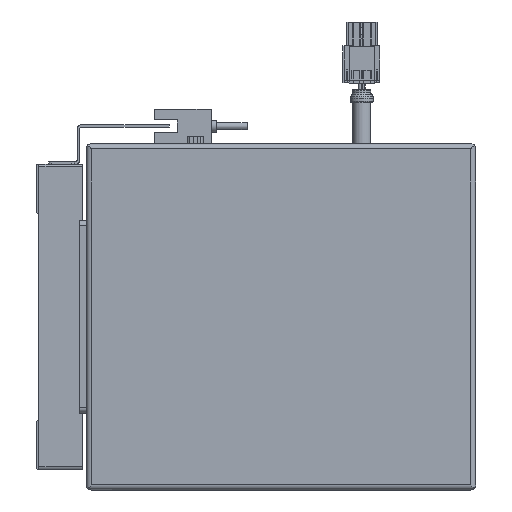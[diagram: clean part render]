
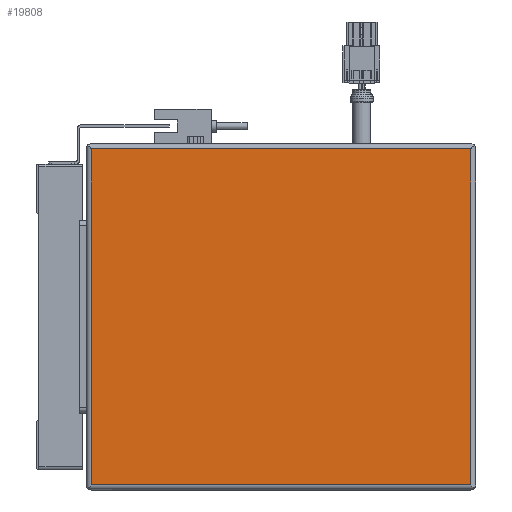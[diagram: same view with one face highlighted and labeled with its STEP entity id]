
A CAD part, left-side view. The second image highlights one B-rep face of the part: STEP entity #19808.
In plain terms, the highlighted planar face has unit normal (-1, 0, 0).
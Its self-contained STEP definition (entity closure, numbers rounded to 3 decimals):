
#4728=ORIENTED_EDGE('',*,*,#8402,.T.);
#4729=ORIENTED_EDGE('',*,*,#8403,.F.);
#4730=ORIENTED_EDGE('',*,*,#8404,.F.);
#4731=ORIENTED_EDGE('',*,*,#8405,.T.);
#8402=EDGE_CURVE('',#10583,#10584,#12684,.T.);
#8403=EDGE_CURVE('',#10585,#10584,#12685,.T.);
#8404=EDGE_CURVE('',#10586,#10585,#12686,.T.);
#8405=EDGE_CURVE('',#10586,#10583,#12687,.T.);
#10583=VERTEX_POINT('',#31608);
#10584=VERTEX_POINT('',#31609);
#10585=VERTEX_POINT('',#31611);
#10586=VERTEX_POINT('',#31613);
#12684=LINE('',#31607,#14781);
#12685=LINE('',#31610,#14782);
#12686=LINE('',#31612,#14783);
#12687=LINE('',#31614,#14784);
#14781=VECTOR('',#25759,1000.);
#14782=VECTOR('',#25760,1000.);
#14783=VECTOR('',#25761,1000.);
#14784=VECTOR('',#25762,1000.);
#16349=EDGE_LOOP('',(#4728,#4729,#4730,#4731));
#17772=FACE_BOUND('',#16349,.T.);
#18826=PLANE('',#21410);
#19808=ADVANCED_FACE('',(#17772),#18826,.F.);
#21410=AXIS2_PLACEMENT_3D('',#31606,#25757,#25758);
#25757=DIRECTION('',(1.,0.,0.));
#25758=DIRECTION('',(0.,0.,-1.));
#25759=DIRECTION('',(0.,-1.,0.));
#25760=DIRECTION('',(0.,0.,-1.));
#25761=DIRECTION('',(0.,-1.,0.));
#25762=DIRECTION('',(0.,0.,-1.));
#31606=CARTESIAN_POINT('',(-52.,2.,65.5));
#31607=CARTESIAN_POINT('',(-52.,152.,-65.5));
#31608=CARTESIAN_POINT('',(-52.,150.,-65.5));
#31609=CARTESIAN_POINT('',(-52.,2.,-65.5));
#31610=CARTESIAN_POINT('',(-52.,2.,67.5));
#31611=CARTESIAN_POINT('',(-52.,2.,65.5));
#31612=CARTESIAN_POINT('',(-52.,152.,65.5));
#31613=CARTESIAN_POINT('',(-52.,150.,65.5));
#31614=CARTESIAN_POINT('',(-52.,150.,67.5));
